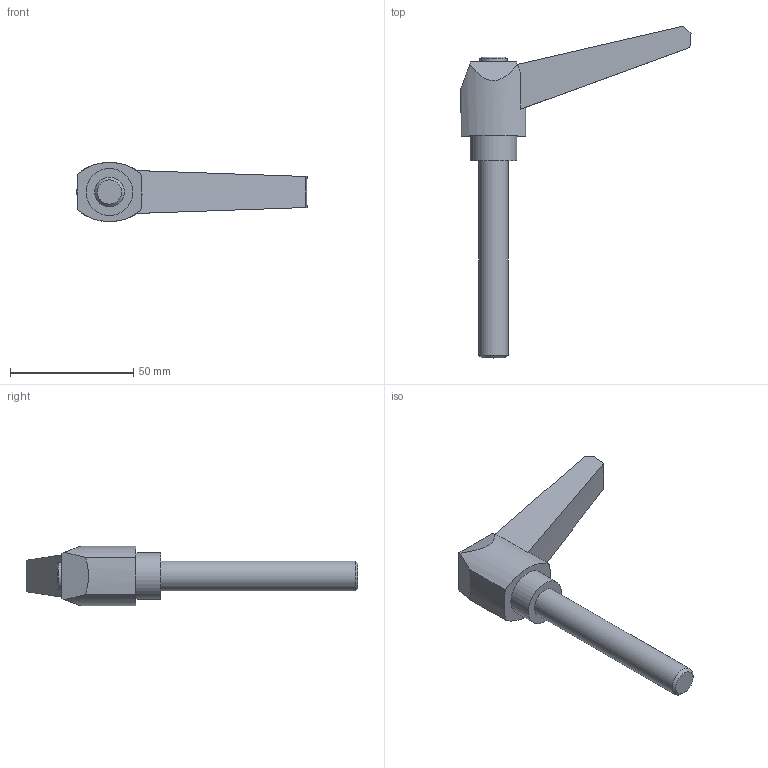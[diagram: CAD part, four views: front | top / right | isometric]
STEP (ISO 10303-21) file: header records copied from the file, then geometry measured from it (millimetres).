
FILE_DESCRIPTION( ( 'STEP AP203' ), '1' );
FILE_NAME( 'C:/Temp/Ganter_Step_05_03_2020/data/2_1/gn_500/gn_500_ms/Adjustable hand lever GN 500-80-M12-80-SW.stp', '2020-03-05T11:26:39', ( 'License CC BY-ND 4.0' ), ( 'CADENAS' ), ' ', 'PARTsolutions', ' ' );
FILE_SCHEMA( ( 'CONFIG_CONTROL_DESIGN' ) );
Length unit declared in the file: millimetre
Products named in the file (1): _Adjustable hand lever GN 500-80-M12-80-SW
Bounding box: 93.3 x 134.58 x 24 mm (x, y, z)
Volume: 41780.6 mm3; surface area: 10890.7 mm2
Topology: 1 solids, 1 shells, 24 faces, 56 edges, 37 vertices
Faces by surface type: plane 11, cylinder 7, cone 6
Full cylindrical faces by diameter (mm): 11 x1, 12 x1, 19 x1
Entity records: 709 total; most frequent: CARTESIAN_POINT 124, DIRECTION 118, ORIENTED_EDGE 100, EDGE_CURVE 50, AXIS2_PLACEMENT_3D 47, VERTEX_POINT 36, EDGE_LOOP 32, FACE_OUTER_BOUND 27
